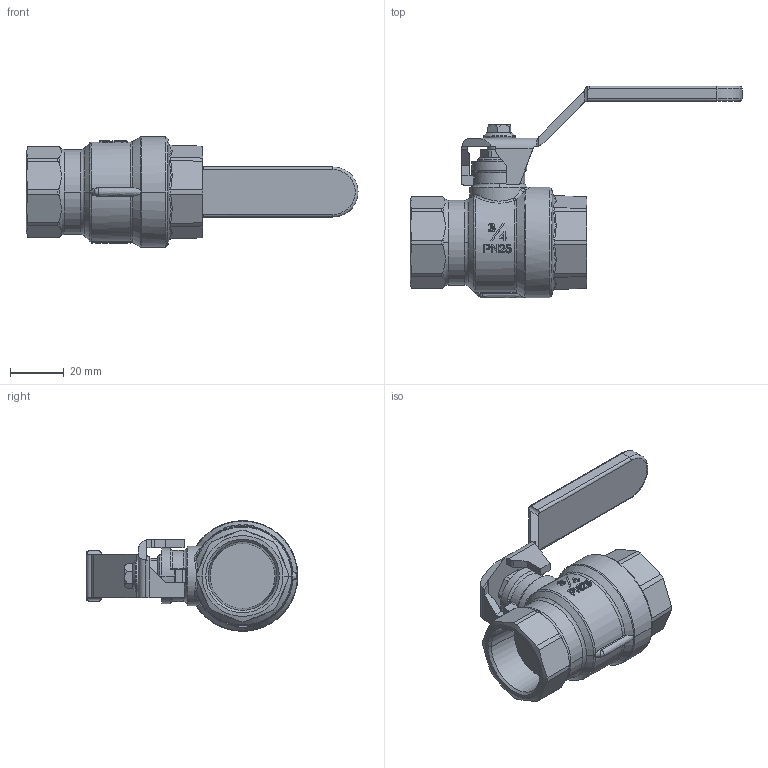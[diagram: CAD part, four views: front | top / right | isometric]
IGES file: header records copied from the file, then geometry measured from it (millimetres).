
Global section: file name: No Iges File Name specified; native system: AutoDesk Inventor R12.0; preprocessor: AutoDesk Inventor Iges Exporter R12.0; date: 20110210.085050; units: millimetre
Bounding box: 123.17 x 78.51 x 41 mm (x, y, z)
Volume: 68571.7 mm3; surface area: 18347.2 mm2
Topology: 1 solids, 1 shells, 1217 faces, 3265 edges, 2132 vertices
Faces by surface type: plane 651, bspline 398, cylinder 68, cone 48, revolution 34, torus 18
